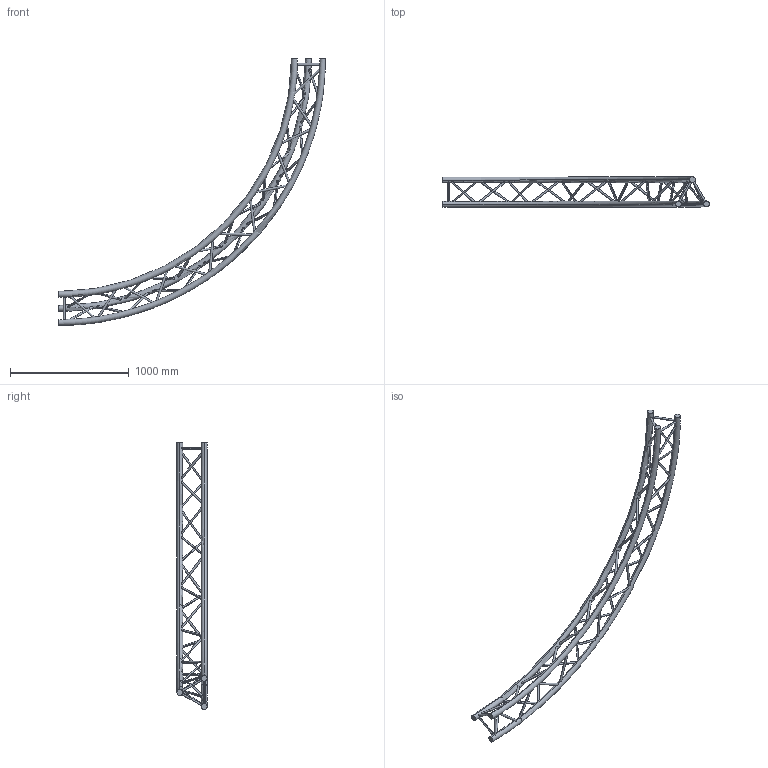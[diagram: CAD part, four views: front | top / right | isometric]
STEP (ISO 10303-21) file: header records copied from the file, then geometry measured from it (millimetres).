
FILE_DESCRIPTION (( 'STEP AP203' ), '1' );
FILE_NAME ('SXC29450PH.STEP', '2009-10-21T08:23:14', ( 'CEDIA' ), ( 'CEDIA INDUSTRIE' ), 'SwSTEP 2.0', 'SolidWorks 2009', '' );
FILE_SCHEMA (( 'CONFIG_CONTROL_DESIGN' ));
Length unit declared in the file: millimetre
Products named in the file (1): SXC29450PH
Bounding box: 2250 x 255.25 x 2250 mm (x, y, z)
Volume: 21812314.8 mm3; surface area: 2128760.4 mm2
Topology: 1 solids, 1 shells, 102 faces, 318 edges, 192 vertices
Faces by surface type: cylinder 90, torus 6, plane 6
Entity records: 11735 total; most frequent: CARTESIAN_POINT 9029, ORIENTED_EDGE 636, DIRECTION 392, EDGE_CURVE 318, VERTEX_POINT 192, B_SPLINE_CURVE_WITH_KNOTS 180, EDGE_LOOP 162, AXIS2_PLACEMENT_3D 151
